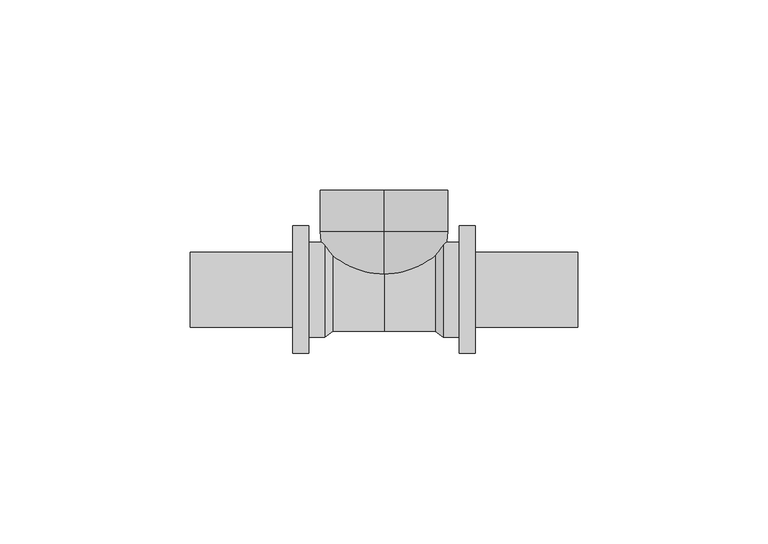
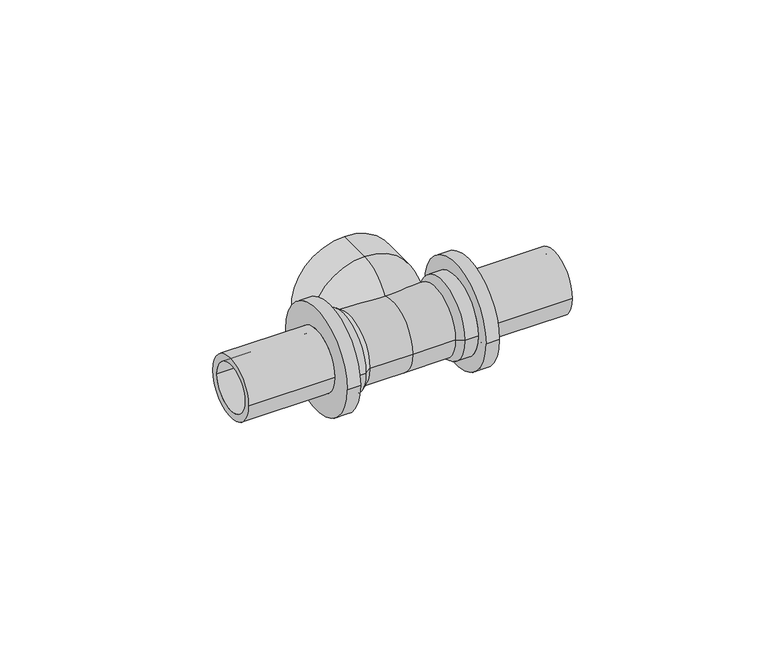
"""IFC4 building model written with IfcOpenShell, lengths in millimetres: pipe fitting geometry, REHAU_RAUTITAN_T-piece RX+, outlet with internal thread : REHAU_RAUTITAN_T-piece RX+, outlet with internal thread."""

from ifc_helpers import new_model, si_unit, point, frame, origin, place, context, project, spatial, polyline, circle_curve, ellipse_curve, trimmed, source, transform, mapped, element, save
from ifc_brep_helpers import plane_surface, cylinder_surface, revolved_surface, advanced_brep


def pipe_fitting_65bb5a8a(model_context):
    return source(origin(), model_context, "Body", "AdvancedBrep", [
        advanced_brep(
        [(-24.0, 9.875, 0.0), (-24.0, -9.875, 0.0), (-51.0, -9.875, 0.0), (-51.0, 9.875, 0.0), (-19.8, 16.8, 0.0), (-19.8, -16.8, 0.0), (-24.0, -16.8, 0.0), (-24.0, 16.8, 0.0), (-15.6, 12.5, 0.0), (-15.6, -12.5, 0.0), (-19.8, -12.5, 0.0), (-19.8, 12.5, 0.0), (-13.5, 11.0, 0.0), (-13.5, -11.0, 0.0), (0.0, 11.0, 0.0), (0.0, -11.0, 0.0), (-13.5, 8.195, 0.0), (-13.5, -8.195, 0.0), (0.0, -8.195, 0.0), (0.0, 8.195, 0.0), (-15.6, 7.6, 0.0), (-15.6, -7.6, 0.0), (-51.0, 7.6, 0.0), (-51.0, -7.6, 0.0)],
        [
            (0, 1, circle_curve(frame((-24.0, 0.0, 0.0), z_axis=(-1.0, 0.0, 0.0), x_axis=(0.0, -1.0, 0.0)), 9.875)),
            (1, 2),
            (2, 3, circle_curve(frame((-51.0, 0.0, 0.0), z_axis=(1.0, 0.0, 0.0), x_axis=(0.0, -1.0, 0.0)), 9.875)),
            (3, 0),
            (4, 5, circle_curve(frame((-19.8, 0.0, 0.0), z_axis=(-1.0, 0.0, 0.0), x_axis=(0.0, -1.0, 0.0)), 16.8)),
            (5, 6),
            (6, 7, circle_curve(frame((-24.0, 0.0, 0.0), z_axis=(1.0, 0.0, 0.0), x_axis=(0.0, -1.0, 0.0)), 16.8)),
            (7, 4),
            (8, 9, circle_curve(frame((-15.6, 0.0, 0.0), z_axis=(-1.0, 0.0, 0.0), x_axis=(0.0, -1.0, 0.0)), 12.5)),
            (9, 10),
            (10, 11, circle_curve(frame((-19.8, 0.0, 0.0), z_axis=(1.0, 0.0, 0.0), x_axis=(0.0, -1.0, 0.0)), 12.5)),
            (11, 8),
            (12, 13, circle_curve(frame((-13.5, 0.0, 0.0), z_axis=(-1.0, 0.0, 0.0), x_axis=(0.0, -1.0, 0.0)), 11.0)),
            (13, 9),
            (8, 12),
            (14, 15, circle_curve(frame((0.0, 0.0, 0.0), z_axis=(-1.0, 0.0, 0.0), x_axis=(0.0, -1.0, 0.0)), 11.0)),
            (15, 13),
            (12, 14),
            (16, 17, circle_curve(frame((-13.5, 0.0, 0.0), z_axis=(-1.0, 0.0, 0.0), x_axis=(0.0, -1.0, 0.0)), 8.195)),
            (17, 18),
            (18, 19, circle_curve(frame((0.0, 0.0, 0.0), z_axis=(1.0, 0.0, 0.0), x_axis=(0.0, -1.0, 0.0)), 8.195)),
            (19, 16),
            (20, 21, circle_curve(frame((-15.6, 0.0, 0.0), z_axis=(-1.0, 0.0, 0.0), x_axis=(0.0, -1.0, 0.0)), 7.6)),
            (21, 17),
            (16, 20),
            (22, 23, circle_curve(frame((-51.0, 0.0, 0.0), z_axis=(-1.0, 0.0, 0.0), x_axis=(0.0, -1.0, 0.0)), 7.6)),
            (23, 21),
            (20, 22),
            (1, 0, circle_curve(frame((-24.0, 0.0, 0.0), z_axis=(-1.0, 0.0, 0.0), x_axis=(0.0, 1.0, 0.0)), 9.875)),
            (3, 2, circle_curve(frame((-51.0, 0.0, 0.0), z_axis=(1.0, 0.0, 0.0), x_axis=(0.0, 1.0, 0.0)), 9.875)),
            (6, 7, circle_curve(frame((-24.0, 0.0, 0.0), z_axis=(-1.0, 0.0, 0.0), x_axis=(0.0, 1.0, 0.0)), 16.8)),
            (5, 4, circle_curve(frame((-19.8, 0.0, 0.0), z_axis=(-1.0, 0.0, 0.0), x_axis=(0.0, 1.0, 0.0)), 16.8)),
            (10, 11, circle_curve(frame((-19.8, 0.0, 0.0), z_axis=(-1.0, 0.0, 0.0), x_axis=(0.0, 1.0, 0.0)), 12.5)),
            (9, 8, circle_curve(frame((-15.6, 0.0, 0.0), z_axis=(-1.0, 0.0, 0.0), x_axis=(0.0, 1.0, 0.0)), 12.5)),
            (13, 12, circle_curve(frame((-13.5, 0.0, 0.0), z_axis=(-1.0, 0.0, 0.0), x_axis=(0.0, 1.0, 0.0)), 11.0)),
            (15, 14, circle_curve(frame((0.0, 0.0, 0.0), z_axis=(-1.0, 0.0, 0.0), x_axis=(0.0, 1.0, 0.0)), 11.0)),
            (18, 19, circle_curve(frame((0.0, 0.0, 0.0), z_axis=(-1.0, 0.0, 0.0), x_axis=(0.0, 1.0, 0.0)), 8.195)),
            (17, 16, circle_curve(frame((-13.5, 0.0, 0.0), z_axis=(-1.0, 0.0, 0.0), x_axis=(0.0, 1.0, 0.0)), 8.195)),
            (21, 20, circle_curve(frame((-15.6, 0.0, 0.0), z_axis=(-1.0, 0.0, 0.0), x_axis=(0.0, 1.0, 0.0)), 7.6)),
            (23, 22, circle_curve(frame((-51.0, 0.0, 0.0), z_axis=(-1.0, 0.0, 0.0), x_axis=(0.0, 1.0, 0.0)), 7.6)),
        ],
        [
            cylinder_surface(frame((0.0, 0.0, 0.0), z_axis=(1.0, 0.0, 0.0), x_axis=(0.0, -1.0, 0.0)), 9.875),
            cylinder_surface(frame((0.0, 0.0, 0.0), z_axis=(1.0, 0.0, 0.0), x_axis=(0.0, -1.0, 0.0)), 16.8),
            cylinder_surface(frame((0.0, 0.0, 0.0), z_axis=(1.0, 0.0, 0.0), x_axis=(0.0, -1.0, 0.0)), 12.5),
            revolved_surface(polyline([(-15.6, -12.5, 0.0), (-13.5, -11.0, 0.0)]), (0.0, 0.0, 0.0), (1.0, 0.0, 0.0)),
            cylinder_surface(frame((0.0, 0.0, 0.0), z_axis=(1.0, 0.0, 0.0), x_axis=(0.0, -1.0, 0.0)), 11.0),
            revolved_surface(polyline([(0.0, -8.195, 0.0), (-13.5, -8.195, 0.0)]), (0.0, 0.0, 0.0), (1.0, 0.0, 0.0)),
            revolved_surface(polyline([(-13.5, -8.195, 0.0), (-15.6, -7.6, 0.0)]), (0.0, 0.0, 0.0), (1.0, 0.0, 0.0)),
            revolved_surface(polyline([(-15.6, -7.6, 0.0), (-51.0, -7.6, 0.0)]), (0.0, 0.0, 0.0), (1.0, 0.0, 0.0)),
            cylinder_surface(frame((0.0, 0.0, 0.0), z_axis=(1.0, 0.0, 0.0), x_axis=(0.0, 1.0, 0.0)), 9.875),
            plane_surface(frame((-24.0, 0.0, 0.0), z_axis=(-1.0, 0.0, 0.0), x_axis=(0.0, 1.0, 0.0))),
            cylinder_surface(frame((0.0, 0.0, 0.0), z_axis=(1.0, 0.0, 0.0), x_axis=(0.0, 1.0, 0.0)), 16.8),
            plane_surface(frame((-19.8, 0.0, 0.0), z_axis=(1.0, 0.0, 0.0), x_axis=(0.0, 1.0, 0.0))),
            cylinder_surface(frame((0.0, 0.0, 0.0), z_axis=(1.0, 0.0, 0.0), x_axis=(0.0, 1.0, 0.0)), 12.5),
            revolved_surface(polyline([(-15.6, 12.5, 0.0), (-13.5, 11.0, 0.0)]), (0.0, 0.0, 0.0), (1.0, 0.0, 0.0)),
            cylinder_surface(frame((0.0, 0.0, 0.0), z_axis=(1.0, 0.0, 0.0), x_axis=(0.0, 1.0, 0.0)), 11.0),
            plane_surface(frame((0.0, 0.0, 0.0), z_axis=(1.0, 0.0, 0.0), x_axis=(0.0, 1.0, 0.0))),
            revolved_surface(polyline([(0.0, 8.195, 0.0), (-13.5, 8.195, 0.0)]), (0.0, 0.0, 0.0), (1.0, 0.0, 0.0)),
            revolved_surface(polyline([(-13.5, 8.195, 0.0), (-15.6, 7.6, 0.0)]), (0.0, 0.0, 0.0), (1.0, 0.0, 0.0)),
            revolved_surface(polyline([(-15.6, 7.6, 0.0), (-51.0, 7.6, 0.0)]), (0.0, 0.0, 0.0), (1.0, 0.0, 0.0)),
            plane_surface(frame((-51.0, 0.0, 0.0), z_axis=(-1.0, 0.0, 0.0), x_axis=(0.0, 1.0, 0.0))),
        ],
        [
            (0, [[1, 2, 3, 4]]),
            (1, [[5, 6, 7, 8]]),
            (2, [[9, 10, 11, 12]]),
            (3, [[13, 14, -9, 15]]),
            (4, [[16, 17, -13, 18]]),
            (5, [[19, 20, 21, 22]]),
            (6, [[23, 24, -19, 25]]),
            (7, [[26, 27, -23, 28]]),
            (8, [[29, -4, 30, -2]]),
            (9, [[31, -7], [-29, -1]]),
            (10, [[32, -8, -31, -6]]),
            (11, [[-32, -5], [33, -11]]),
            (12, [[34, -12, -33, -10]]),
            (13, [[35, -15, -34, -14]]),
            (14, [[36, -18, -35, -17]]),
            (15, [[-36, -16], [37, -21]]),
            (16, [[38, -22, -37, -20]]),
            (17, [[39, -25, -38, -24]]),
            (18, [[40, -28, -39, -27]]),
            (19, [[-30, -3], [-40, -26]]),
        ],
    ),
        advanced_brep(
        [(15.6, 7.6, 0.0), (15.6, -7.6, 0.0), (51.0, -7.6, 0.0), (51.0, 7.6, 0.0), (13.5, 8.195, 0.0), (13.5, -8.195, 0.0), (0.0, 8.195, 0.0), (0.0, -8.195, 0.0), (13.5, 11.0, 0.0), (13.5, -11.0, 0.0), (0.0, -11.0, 0.0), (0.0, 11.0, 0.0), (15.6, 12.5, 0.0), (15.6, -12.5, 0.0), (19.8, 12.5, 0.0), (19.8, -12.5, 0.0), (24.0, 16.8, 0.0), (24.0, -16.8, 0.0), (19.8, -16.8, 0.0), (19.8, 16.8, 0.0), (51.0, 9.875, 0.0), (51.0, -9.875, 0.0), (24.0, -9.875, 0.0), (24.0, 9.875, 0.0)],
        [
            (0, 1, circle_curve(frame((15.6, 0.0, 0.0), z_axis=(-1.0, 0.0, 0.0), x_axis=(0.0, -1.0, 0.0)), 7.6)),
            (1, 2),
            (2, 3, circle_curve(frame((51.0, 0.0, 0.0), z_axis=(1.0, 0.0, 0.0), x_axis=(0.0, -1.0, 0.0)), 7.6)),
            (3, 0),
            (4, 5, circle_curve(frame((13.5, 0.0, 0.0), z_axis=(-1.0, 0.0, 0.0), x_axis=(0.0, -1.0, 0.0)), 8.195)),
            (5, 1),
            (0, 4),
            (6, 7, circle_curve(frame((0.0, 0.0, 0.0), z_axis=(-1.0, 0.0, 0.0), x_axis=(0.0, -1.0, 0.0)), 8.195)),
            (7, 5),
            (4, 6),
            (8, 9, circle_curve(frame((13.5, 0.0, 0.0), z_axis=(-1.0, 0.0, 0.0), x_axis=(0.0, -1.0, 0.0)), 11.0)),
            (9, 10),
            (10, 11, circle_curve(frame((0.0, 0.0, 0.0), z_axis=(1.0, 0.0, 0.0), x_axis=(0.0, -1.0, 0.0)), 11.0)),
            (11, 8),
            (12, 13, circle_curve(frame((15.6, 0.0, 0.0), z_axis=(-1.0, 0.0, 0.0), x_axis=(0.0, -1.0, 0.0)), 12.5)),
            (13, 9),
            (8, 12),
            (14, 15, circle_curve(frame((19.8, 0.0, 0.0), z_axis=(-1.0, 0.0, 0.0), x_axis=(0.0, -1.0, 0.0)), 12.5)),
            (15, 13),
            (12, 14),
            (16, 17, circle_curve(frame((24.0, 0.0, 0.0), z_axis=(-1.0, 0.0, 0.0), x_axis=(0.0, -1.0, 0.0)), 16.8)),
            (17, 18),
            (18, 19, circle_curve(frame((19.8, 0.0, 0.0), z_axis=(1.0, 0.0, 0.0), x_axis=(0.0, -1.0, 0.0)), 16.8)),
            (19, 16),
            (20, 21, circle_curve(frame((51.0, 0.0, 0.0), z_axis=(-1.0, 0.0, 0.0), x_axis=(0.0, -1.0, 0.0)), 9.875)),
            (21, 22),
            (22, 23, circle_curve(frame((24.0, 0.0, 0.0), z_axis=(1.0, 0.0, 0.0), x_axis=(0.0, -1.0, 0.0)), 9.875)),
            (23, 20),
            (20, 21, circle_curve(frame((51.0, 0.0, 0.0), z_axis=(1.0, 0.0, 0.0), x_axis=(0.0, 1.0, 0.0)), 9.875)),
            (2, 3, circle_curve(frame((51.0, 0.0, 0.0), z_axis=(-1.0, 0.0, 0.0), x_axis=(0.0, 1.0, 0.0)), 7.6)),
            (1, 0, circle_curve(frame((15.6, 0.0, 0.0), z_axis=(-1.0, 0.0, 0.0), x_axis=(0.0, 1.0, 0.0)), 7.6)),
            (5, 4, circle_curve(frame((13.5, 0.0, 0.0), z_axis=(-1.0, 0.0, 0.0), x_axis=(0.0, 1.0, 0.0)), 8.195)),
            (7, 6, circle_curve(frame((0.0, 0.0, 0.0), z_axis=(-1.0, 0.0, 0.0), x_axis=(0.0, 1.0, 0.0)), 8.195)),
            (10, 11, circle_curve(frame((0.0, 0.0, 0.0), z_axis=(-1.0, 0.0, 0.0), x_axis=(0.0, 1.0, 0.0)), 11.0)),
            (9, 8, circle_curve(frame((13.5, 0.0, 0.0), z_axis=(-1.0, 0.0, 0.0), x_axis=(0.0, 1.0, 0.0)), 11.0)),
            (13, 12, circle_curve(frame((15.6, 0.0, 0.0), z_axis=(-1.0, 0.0, 0.0), x_axis=(0.0, 1.0, 0.0)), 12.5)),
            (15, 14, circle_curve(frame((19.8, 0.0, 0.0), z_axis=(-1.0, 0.0, 0.0), x_axis=(0.0, 1.0, 0.0)), 12.5)),
            (18, 19, circle_curve(frame((19.8, 0.0, 0.0), z_axis=(-1.0, 0.0, 0.0), x_axis=(0.0, 1.0, 0.0)), 16.8)),
            (17, 16, circle_curve(frame((24.0, 0.0, 0.0), z_axis=(-1.0, 0.0, 0.0), x_axis=(0.0, 1.0, 0.0)), 16.8)),
            (22, 23, circle_curve(frame((24.0, 0.0, 0.0), z_axis=(-1.0, 0.0, 0.0), x_axis=(0.0, 1.0, 0.0)), 9.875)),
        ],
        [
            revolved_surface(polyline([(51.0, -7.6, 0.0), (15.6, -7.6, 0.0)]), (0.0, 0.0, 0.0), (1.0, 0.0, 0.0)),
            revolved_surface(polyline([(15.6, -7.6, 0.0), (13.5, -8.195, 0.0)]), (0.0, 0.0, 0.0), (1.0, 0.0, 0.0)),
            revolved_surface(polyline([(13.5, -8.195, 0.0), (0.0, -8.195, 0.0)]), (0.0, 0.0, 0.0), (1.0, 0.0, 0.0)),
            cylinder_surface(frame((0.0, 0.0, 0.0), z_axis=(1.0, 0.0, 0.0), x_axis=(0.0, -1.0, 0.0)), 11.0),
            revolved_surface(polyline([(13.5, -11.0, 0.0), (15.6, -12.5, 0.0)]), (0.0, 0.0, 0.0), (1.0, 0.0, 0.0)),
            cylinder_surface(frame((0.0, 0.0, 0.0), z_axis=(1.0, 0.0, 0.0), x_axis=(0.0, -1.0, 0.0)), 12.5),
            cylinder_surface(frame((0.0, 0.0, 0.0), z_axis=(1.0, 0.0, 0.0), x_axis=(0.0, -1.0, 0.0)), 16.8),
            cylinder_surface(frame((0.0, 0.0, 0.0), z_axis=(1.0, 0.0, 0.0), x_axis=(0.0, -1.0, 0.0)), 9.875),
            plane_surface(frame((51.0, 0.0, 0.0), z_axis=(1.0, 0.0, 0.0), x_axis=(0.0, 1.0, 0.0))),
            revolved_surface(polyline([(51.0, 7.6, 0.0), (15.6, 7.6, 0.0)]), (0.0, 0.0, 0.0), (1.0, 0.0, 0.0)),
            revolved_surface(polyline([(15.6, 7.6, 0.0), (13.5, 8.195, 0.0)]), (0.0, 0.0, 0.0), (1.0, 0.0, 0.0)),
            revolved_surface(polyline([(13.5, 8.195, 0.0), (0.0, 8.195, 0.0)]), (0.0, 0.0, 0.0), (1.0, 0.0, 0.0)),
            plane_surface(frame((0.0, 0.0, 0.0), z_axis=(-1.0, 0.0, 0.0), x_axis=(0.0, 1.0, 0.0))),
            cylinder_surface(frame((0.0, 0.0, 0.0), z_axis=(1.0, 0.0, 0.0), x_axis=(0.0, 1.0, 0.0)), 11.0),
            revolved_surface(polyline([(13.5, 11.0, 0.0), (15.6, 12.5, 0.0)]), (0.0, 0.0, 0.0), (1.0, 0.0, 0.0)),
            cylinder_surface(frame((0.0, 0.0, 0.0), z_axis=(1.0, 0.0, 0.0), x_axis=(0.0, 1.0, 0.0)), 12.5),
            plane_surface(frame((19.8, 0.0, 0.0), z_axis=(-1.0, 0.0, 0.0), x_axis=(0.0, 1.0, 0.0))),
            cylinder_surface(frame((0.0, 0.0, 0.0), z_axis=(1.0, 0.0, 0.0), x_axis=(0.0, 1.0, 0.0)), 16.8),
            plane_surface(frame((24.0, 0.0, 0.0), z_axis=(1.0, 0.0, 0.0), x_axis=(0.0, 1.0, 0.0))),
            cylinder_surface(frame((0.0, 0.0, 0.0), z_axis=(1.0, 0.0, 0.0), x_axis=(0.0, 1.0, 0.0)), 9.875),
        ],
        [
            (0, [[1, 2, 3, 4]]),
            (1, [[5, 6, -1, 7]]),
            (2, [[8, 9, -5, 10]]),
            (3, [[11, 12, 13, 14]]),
            (4, [[15, 16, -11, 17]]),
            (5, [[18, 19, -15, 20]]),
            (6, [[21, 22, 23, 24]]),
            (7, [[25, 26, 27, 28]]),
            (8, [[29, -25], [30, -3]]),
            (9, [[31, -4, -30, -2]]),
            (10, [[32, -7, -31, -6]]),
            (11, [[33, -10, -32, -9]]),
            (12, [[34, -13], [-33, -8]]),
            (13, [[35, -14, -34, -12]]),
            (14, [[36, -17, -35, -16]]),
            (15, [[37, -20, -36, -19]]),
            (16, [[38, -23], [-37, -18]]),
            (17, [[39, -24, -38, -22]]),
            (18, [[-39, -21], [40, -27]]),
            (19, [[-29, -28, -40, -26]]),
        ],
    ),
        advanced_brep(
        [(0.0, 2.0795601, 4.23), (0.0, 2.0795601, -4.23), (0.0, 15.15, -16.81), (0.0, 15.15, 16.81), (0.0, 5.8133786, 4.23), (0.0, 5.8133786, -4.23), (0.0, 15.15, 13.08), (0.0, 15.15, -13.08), (0.0, 26.16, 13.08), (0.0, 26.16, -13.08), (0.0, 26.16, -16.81), (0.0, 26.16, 16.81)],
        [
            (0, 1, circle_curve(frame((0.0, 2.0795601, 0.0), z_axis=(0.0, 1.0, 0.0), x_axis=(0.0, 0.0, -1.0)), 4.23)),
            (1, 2, circle_curve(frame((0.0, 15.15, -3.73), z_axis=(1.0, 0.0, 0.0), x_axis=(0.0, 1.0, 0.0)), 13.08)),
            (2, 3, circle_curve(frame((0.0, 15.15, 0.0), z_axis=(0.0, -1.0, 0.0), x_axis=(0.0, 0.0, -1.0)), 16.81)),
            (3, 0, circle_curve(frame((0.0, 15.15, 3.73), z_axis=(1.0, 0.0, 0.0), x_axis=(0.0, 1.0, 0.0)), 13.08)),
            (4, 5, circle_curve(frame((0.0, 5.8133786, 0.0), z_axis=(0.0, 1.0, 0.0), x_axis=(0.0, 0.0, -1.0)), 4.23)),
            (5, 1),
            (0, 4),
            (6, 7, circle_curve(frame((0.0, 15.15, 0.0), z_axis=(0.0, 1.0, 0.0), x_axis=(0.0, 0.0, -1.0)), 13.08)),
            (7, 5, circle_curve(frame((0.0, 15.15, -3.73), z_axis=(-1.0, 0.0, 0.0), x_axis=(0.0, 1.0, 0.0)), 9.35)),
            (4, 6, circle_curve(frame((0.0, 15.15, 3.73), z_axis=(-1.0, 0.0, 0.0), x_axis=(0.0, 1.0, 0.0)), 9.35)),
            (8, 9, circle_curve(frame((0.0, 26.16, 0.0), z_axis=(0.0, 1.0, 0.0), x_axis=(0.0, 0.0, -1.0)), 13.08)),
            (9, 7),
            (6, 8),
            (2, 10),
            (10, 11, circle_curve(frame((0.0, 26.16, 0.0), z_axis=(0.0, -1.0, 0.0), x_axis=(0.0, 0.0, -1.0)), 16.81)),
            (11, 3),
            (1, 0, circle_curve(frame((0.0, 2.0795601, 0.0), z_axis=(0.0, 1.0, 0.0), x_axis=(0.0, 0.0, 1.0)), 4.23)),
            (3, 2, circle_curve(frame((0.0, 15.15, 0.0), z_axis=(0.0, -1.0, 0.0), x_axis=(0.0, 0.0, 1.0)), 16.81)),
            (5, 4, circle_curve(frame((0.0, 5.8133786, 0.0), z_axis=(0.0, 1.0, 0.0), x_axis=(0.0, 0.0, 1.0)), 4.23)),
            (7, 6, circle_curve(frame((0.0, 15.15, 0.0), z_axis=(0.0, 1.0, 0.0), x_axis=(0.0, 0.0, 1.0)), 13.08)),
            (9, 8, circle_curve(frame((0.0, 26.16, 0.0), z_axis=(0.0, 1.0, 0.0), x_axis=(0.0, 0.0, 1.0)), 13.08)),
            (10, 11, circle_curve(frame((0.0, 26.16, 0.0), z_axis=(0.0, 1.0, 0.0), x_axis=(0.0, 0.0, 1.0)), 16.81)),
        ],
        [
            revolved_surface(trimmed(ellipse_curve(frame((0.0, 15.15, -3.73), z_axis=(-1.0, 0.0, 0.0), x_axis=(0.0, 1.0, 0.0)), 13.08, 13.08), [point((0.0, 15.15, -16.81))], [point((0.0, 2.0795601, -4.23))], True, "CARTESIAN"), (0.0, 0.0, 0.0), (0.0, -1.0, 0.0)),
            revolved_surface(polyline([(0.0, 2.0795601, -4.23), (0.0, 5.8133786, -4.23)]), (0.0, 0.0, 0.0), (0.0, -1.0, 0.0)),
            revolved_surface(trimmed(ellipse_curve(frame((0.0, 15.15, -3.73), z_axis=(1.0, 0.0, 0.0), x_axis=(0.0, 1.0, 0.0)), 9.35, 9.35), [point((0.0, 5.8133786, -4.23))], [point((0.0, 15.15, -13.08))], True, "CARTESIAN"), (0.0, 0.0, 0.0), (0.0, -1.0, 0.0)),
            revolved_surface(polyline([(0.0, 15.15, -13.08), (0.0, 26.16, -13.08)]), (0.0, 0.0, 0.0), (0.0, -1.0, 0.0)),
            cylinder_surface(frame((0.0, 0.0, 0.0), z_axis=(0.0, -1.0, 0.0), x_axis=(0.0, 0.0, -1.0)), 16.81),
            revolved_surface(trimmed(ellipse_curve(frame((0.0, 15.15, 3.73), z_axis=(1.0, 0.0, 0.0), x_axis=(0.0, 1.0, 0.0)), 13.08, 13.08), [point((0.0, 15.15, 16.81))], [point((0.0, 2.0795601, 4.23))], True, "CARTESIAN"), (0.0, 0.0, 0.0), (0.0, -1.0, 0.0)),
            revolved_surface(polyline([(0.0, 2.0795601, 4.23), (0.0, 5.8133786, 4.23)]), (0.0, 0.0, 0.0), (0.0, -1.0, 0.0)),
            revolved_surface(trimmed(ellipse_curve(frame((0.0, 15.15, 3.73), z_axis=(-1.0, 0.0, 0.0), x_axis=(0.0, 1.0, 0.0)), 9.35, 9.35), [point((0.0, 5.8133786, 4.23))], [point((0.0, 15.15, 13.08))], True, "CARTESIAN"), (0.0, 0.0, 0.0), (0.0, -1.0, 0.0)),
            revolved_surface(polyline([(0.0, 15.15, 13.08), (0.0, 26.16, 13.08)]), (0.0, 0.0, 0.0), (0.0, -1.0, 0.0)),
            plane_surface(frame((0.0, 26.16, 0.0), z_axis=(0.0, 1.0, 0.0), x_axis=(0.0, 0.0, 1.0))),
            cylinder_surface(frame((0.0, 0.0, 0.0), z_axis=(0.0, -1.0, 0.0), x_axis=(0.0, 0.0, 1.0)), 16.81),
        ],
        [
            (0, [[1, 2, 3, 4]]),
            (1, [[5, 6, -1, 7]]),
            (2, [[8, 9, -5, 10]]),
            (3, [[11, 12, -8, 13]]),
            (4, [[-3, 14, 15, 16]]),
            (5, [[17, -4, 18, -2]]),
            (6, [[19, -7, -17, -6]]),
            (7, [[20, -10, -19, -9]]),
            (8, [[21, -13, -20, -12]]),
            (9, [[22, -15], [-21, -11]]),
            (10, [[-18, -16, -22, -14]]),
        ],
    ),
    ])


if __name__ == "__main__":
    model = new_model("IFC4")
    model_context = context("Model", 3, world=origin())
    ifc_project = project(units=[si_unit("LENGTHUNIT", "METRE", prefix="MILLI")], contexts=[model_context])
    site = spatial("IfcSite", under=ifc_project)
    building = spatial("IfcBuilding", under=site)
    placement = place(None, origin())
    pipe_fitting_shape = pipe_fitting_65bb5a8a(model_context)
    element("IfcPipeFitting", 1, ObjectType="REHAU_RAUTITAN_T-piece RX+, outlet with internal thread : REHAU_RAUTITAN_T-piece RX+, outlet with internal thread", at=placement, inside=building, context=model_context, shape_type="MappedRepresentation", body=[
        mapped(pipe_fitting_shape, transform((0.0, 0.0, 0.0), x_axis=(1.0, 0.0, 0.0), y_axis=(0.0, 1.0, 0.0), z_axis=(0.0, 0.0, 1.0))),
    ])
    save(model, "model.ifc")
